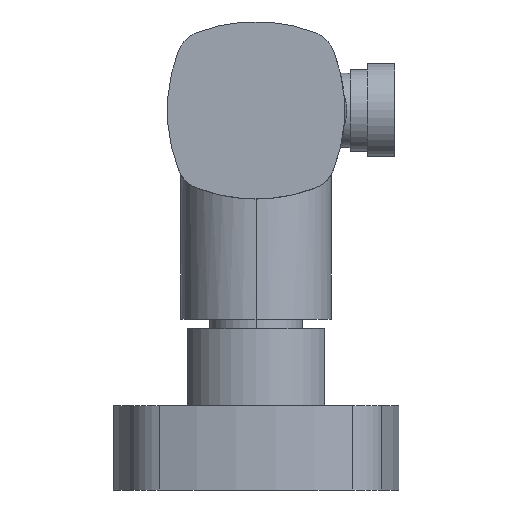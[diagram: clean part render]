
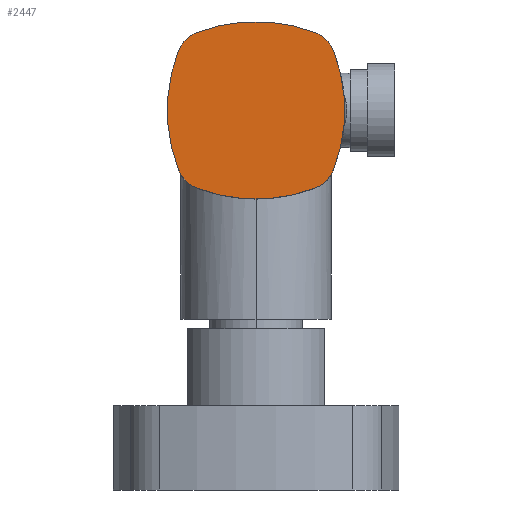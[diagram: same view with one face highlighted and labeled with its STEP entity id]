
A CAD part, left-side view. The second image highlights one B-rep face of the part: STEP entity #2447.
In plain terms, the highlighted planar face has unit normal (-1, 0, 0).
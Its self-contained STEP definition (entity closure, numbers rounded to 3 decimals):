
#2447 = ADVANCED_FACE('',(#2448),#2522,.T.);
#2448 = FACE_BOUND('',#2449,.T.);
#2449 = EDGE_LOOP('',(#2450,#2461,#2470,#2479,#2488,#2497,#2506,#2515));
#2450 = ORIENTED_EDGE('',*,*,#2451,.T.);
#2451 = EDGE_CURVE('',#2452,#2454,#2456,.T.);
#2452 = VERTEX_POINT('',#2453);
#2453 = CARTESIAN_POINT('',(-145.3,-13.102,
    100.674));
#2454 = VERTEX_POINT('',#2455);
#2455 = CARTESIAN_POINT('',(-145.3,13.102,
    100.674));
#2456 = CIRCLE('',#2457,36.);
#2457 = AXIS2_PLACEMENT_3D('',#2458,#2459,#2460);
#2458 = CARTESIAN_POINT('',(-145.3,0.,
    67.143));
#2459 = DIRECTION('',(-1.,0.,0.));
#2460 = DIRECTION('',(0.,-1.,0.));
#2461 = ORIENTED_EDGE('',*,*,#2462,.T.);
#2462 = EDGE_CURVE('',#2454,#2463,#2465,.T.);
#2463 = VERTEX_POINT('',#2464);
#2464 = CARTESIAN_POINT('',(-145.3,17.074,
    96.702));
#2465 = CIRCLE('',#2466,7.);
#2466 = AXIS2_PLACEMENT_3D('',#2467,#2468,#2469);
#2467 = CARTESIAN_POINT('',(-145.3,10.554,
    94.154));
#2468 = DIRECTION('',(-1.,0.,0.));
#2469 = DIRECTION('',(0.,-1.,0.));
#2470 = ORIENTED_EDGE('',*,*,#2471,.T.);
#2471 = EDGE_CURVE('',#2463,#2472,#2474,.T.);
#2472 = VERTEX_POINT('',#2473);
#2473 = CARTESIAN_POINT('',(-145.3,17.074,
    70.498));
#2474 = CIRCLE('',#2475,36.);
#2475 = AXIS2_PLACEMENT_3D('',#2476,#2477,#2478);
#2476 = CARTESIAN_POINT('',(-145.3,-16.457,
    83.6));
#2477 = DIRECTION('',(-1.,0.,0.));
#2478 = DIRECTION('',(0.,0.,-1.));
#2479 = ORIENTED_EDGE('',*,*,#2480,.T.);
#2480 = EDGE_CURVE('',#2472,#2481,#2483,.T.);
#2481 = VERTEX_POINT('',#2482);
#2482 = CARTESIAN_POINT('',(-145.3,13.102,
    66.526));
#2483 = CIRCLE('',#2484,7.);
#2484 = AXIS2_PLACEMENT_3D('',#2485,#2486,#2487);
#2485 = CARTESIAN_POINT('',(-145.3,10.554,
    73.046));
#2486 = DIRECTION('',(-1.,0.,0.));
#2487 = DIRECTION('',(0.,-1.,0.));
#2488 = ORIENTED_EDGE('',*,*,#2489,.T.);
#2489 = EDGE_CURVE('',#2481,#2490,#2492,.T.);
#2490 = VERTEX_POINT('',#2491);
#2491 = CARTESIAN_POINT('',(-145.3,-13.102,
    66.526));
#2492 = CIRCLE('',#2493,36.);
#2493 = AXIS2_PLACEMENT_3D('',#2494,#2495,#2496);
#2494 = CARTESIAN_POINT('',(-145.3,0.,
    100.057));
#2495 = DIRECTION('',(-1.,0.,0.));
#2496 = DIRECTION('',(0.,-1.,0.));
#2497 = ORIENTED_EDGE('',*,*,#2498,.T.);
#2498 = EDGE_CURVE('',#2490,#2499,#2501,.T.);
#2499 = VERTEX_POINT('',#2500);
#2500 = CARTESIAN_POINT('',(-145.3,-17.074,
    70.498));
#2501 = CIRCLE('',#2502,7.);
#2502 = AXIS2_PLACEMENT_3D('',#2503,#2504,#2505);
#2503 = CARTESIAN_POINT('',(-145.3,-10.554,
    73.046));
#2504 = DIRECTION('',(-1.,0.,0.));
#2505 = DIRECTION('',(0.,-1.,0.));
#2506 = ORIENTED_EDGE('',*,*,#2507,.T.);
#2507 = EDGE_CURVE('',#2499,#2508,#2510,.T.);
#2508 = VERTEX_POINT('',#2509);
#2509 = CARTESIAN_POINT('',(-145.3,-17.074,
    96.702));
#2510 = CIRCLE('',#2511,36.);
#2511 = AXIS2_PLACEMENT_3D('',#2512,#2513,#2514);
#2512 = CARTESIAN_POINT('',(-145.3,16.457,
    83.6));
#2513 = DIRECTION('',(-1.,0.,0.));
#2514 = DIRECTION('',(0.,0.,-1.));
#2515 = ORIENTED_EDGE('',*,*,#2516,.T.);
#2516 = EDGE_CURVE('',#2508,#2452,#2517,.T.);
#2517 = CIRCLE('',#2518,7.);
#2518 = AXIS2_PLACEMENT_3D('',#2519,#2520,#2521);
#2519 = CARTESIAN_POINT('',(-145.3,-10.554,
    94.154));
#2520 = DIRECTION('',(-1.,0.,0.));
#2521 = DIRECTION('',(0.,-1.,0.));
#2522 = PLANE('',#2523);
#2523 = AXIS2_PLACEMENT_3D('',#2524,#2525,#2526);
#2524 = CARTESIAN_POINT('',(-145.3,-17.554,
    94.154));
#2525 = DIRECTION('',(-1.,0.,0.));
#2526 = DIRECTION('',(0.,0.,1.));
